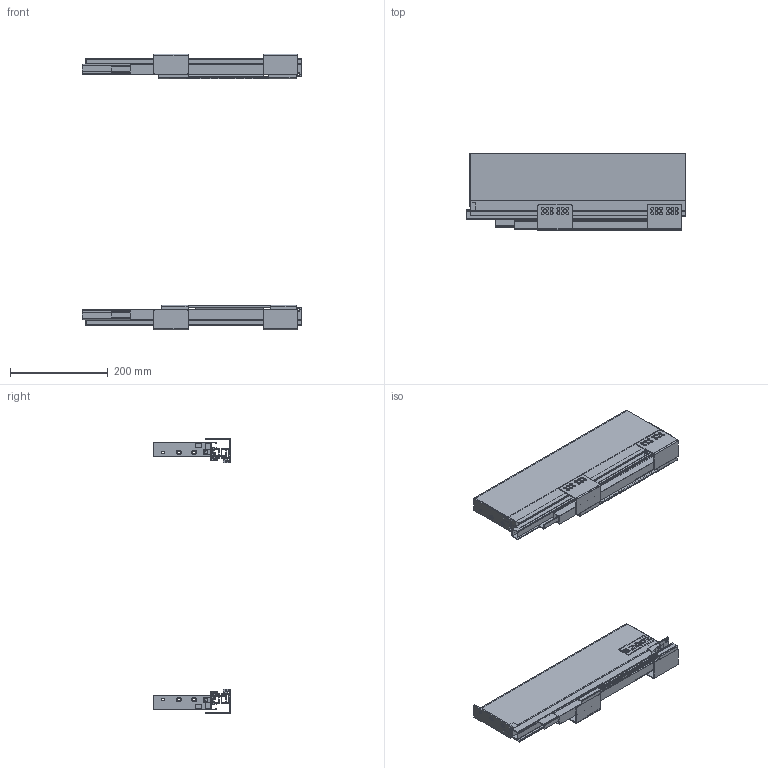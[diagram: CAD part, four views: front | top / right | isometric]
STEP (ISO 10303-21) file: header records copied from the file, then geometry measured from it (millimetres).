
FILE_DESCRIPTION(/* description */ (''),/* implementation_level */ '2;1');
FILE_NAME(/* name */ 'C:\Users\dmitruk\Documents\WORK\\X2\041D0410041F042004100412041B042F042E042904180415\X0\\SLIMBOX\SLIMBOX\SLIMBOX H128 L-450.stp',/* time_stamp */ '2022-04-19T17:20:44+03:00',/* author */ ('dmitruk'),/* organization */ ('AKS'),/* preprocessor_version */ 'ST-DEVELOPER v16.5',/* originating_system */ 'Autodesk Inventor 2017',/* authorisation */ '');
FILE_SCHEMA (('AUTOMOTIVE_DESIGN { 1 0 10303 214 3 1 1 }'));
Length unit declared in the file: millimetre
Products named in the file (12): SLIMBOX 90 мм правый; Боковина SLIMBOX _2; Направляющие \X2\0441043A
0440044B0442043E0433043E\X0\ монтажа \X2\043F
043E043B043D043E0433043E\X0\ \X2\0432044B04340432043804360435043D0438044F
\X0\ SLIMBOX-01; CR SLIMBOX-450; DR SLIMBOX; Крепление \X2\04440430
0441043004340430\X0\ SLIMBOX прав; CR SLIMBOX-500; DL SLIMBOX; Крепление \X2\04440430
0441043004340430\X0\ SLIMBOX лев; slim DW; Крепление к 
фасаду; Заглушка SLIMBOX
Assembly tree (14 placements, depth 3):
  SLIMBOX 90 мм правый
    Боковина SLIMBOX _2
    Направляющие \X2\0441043A
0440044B0442043E0433043E\X0\ монтажа \X2\043F
043E043B043D043E0433043E\X0\ \X2\0432044B04340432043804360435043D0438044F
\X0\ SLIMBOX-01
      CR SLIMBOX-450
      DR SLIMBOX
      slim DW  x2
      Крепление \X2\04440430
0441043004340430\X0\ SLIMBOX прав
      CR SLIMBOX-500
      DL SLIMBOX
      Крепление \X2\04440430
0441043004340430\X0\ SLIMBOX лев
    Крепление к 
фасаду  x2
    Заглушка SLIMBOX  x2
Bounding box: 450 x 157.5 x 564 mm (x, y, z)
Volume: 587667.5 mm3; surface area: 863031.6 mm2
Topology: 31 solids, 31 shells, 1329 faces, 3632 edges, 2425 vertices
Faces by surface type: plane 963, cylinder 350, cone 16
Full cylindrical faces by diameter (mm): 3 x2, 3.8 x4, 4 x4, 4.8 x4, 6 x48, 7.603 x4, 7.801 x2, 8.085 x2, 10.37 x2, 11 x4, 12.231 x2
Entity records: 34937 total; most frequent: CARTESIAN_POINT 5956, ORIENTED_EDGE 5752, DIRECTION 5657, EDGE_CURVE 2876, LINE 2345, VECTOR 2345, VERTEX_POINT 1955, AXIS2_PLACEMENT_3D 1656
